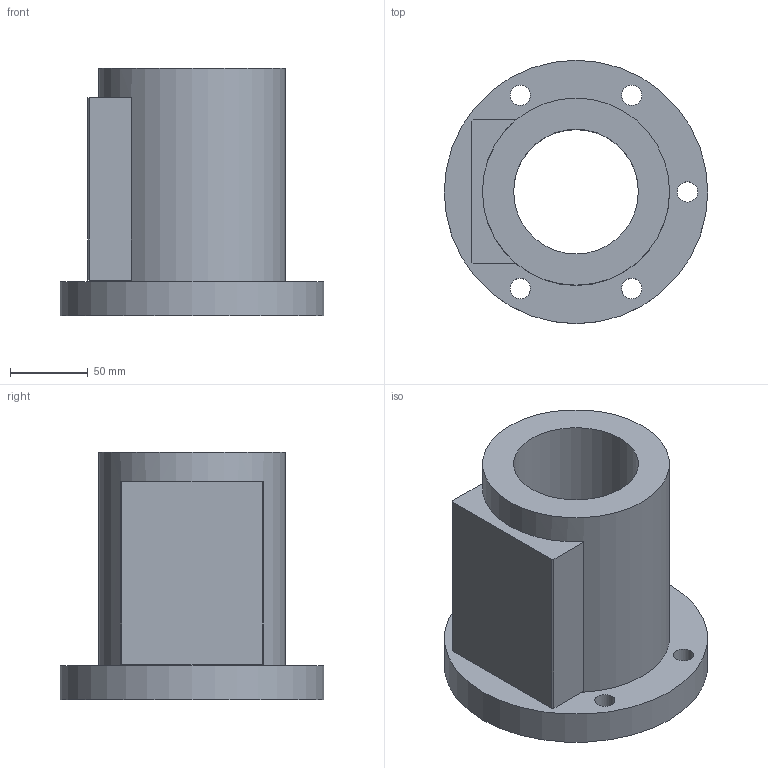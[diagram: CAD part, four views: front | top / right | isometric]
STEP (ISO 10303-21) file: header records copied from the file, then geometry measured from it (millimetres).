
FILE_DESCRIPTION(/* description */ (''),/* implementation_level */ '2;1');
FILE_NAME(/* name */ '80-12B3',/* time_stamp */ '2006-07-31T13:05:05+08:00',/* author */ (''),/* organization */ (''),/* preprocessor_version */ 'ST-DEVELOPER v9',/* originating_system */ 'UGS - NX 4.0',/* authorisation */ '');
FILE_SCHEMA (('CONFIG_CONTROL_DESIGN'));
Length unit declared in the file: millimetre
Products named in the file (1): 80-12B3
Bounding box: 169 x 169 x 159 mm (x, y, z)
Volume: 1363062.6 mm3; surface area: 150339.6 mm2
Topology: 1 solids, 1 shells, 30 faces, 67 edges, 46 vertices
Faces by surface type: plane 17, cylinder 13
Full cylindrical faces by diameter (mm): 13 x5, 20 x5, 80 x1, 120 x1, 169 x1
Entity records: 860 total; most frequent: DIRECTION 140, CARTESIAN_POINT 123, ORIENTED_EDGE 100, EDGE_LOOP 62, AXIS2_PLACEMENT_3D 59, EDGE_CURVE 50, FACE_BOUND 45, VERTEX_POINT 42
